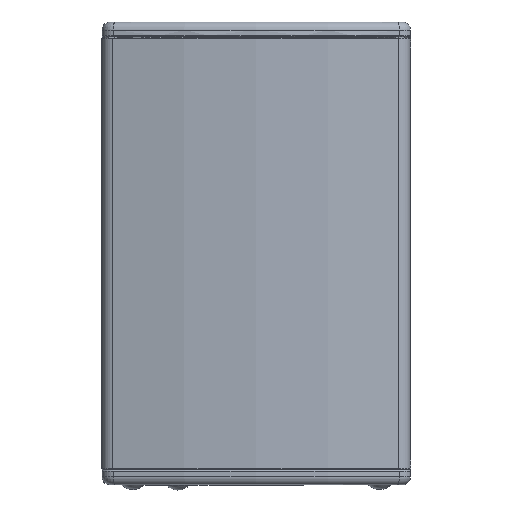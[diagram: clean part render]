
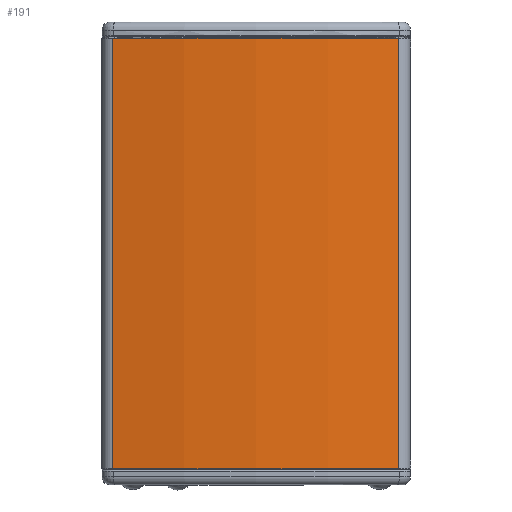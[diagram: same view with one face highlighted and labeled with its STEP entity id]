
A CAD part, top view. The second image highlights one B-rep face of the part: STEP entity #191.
In plain terms, the highlighted cylindrical face has radius 563 mm (diameter 1126 mm), a partial arc.
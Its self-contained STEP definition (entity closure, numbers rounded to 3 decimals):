
#191 = ADVANCED_FACE ( 'NONE', ( #4494 ), #4495, .T. ) ;
#1165 = DIRECTION ( 'NONE',  ( 0., -1., 0. ) ) ;
#1166 = CARTESIAN_POINT ( 'NONE',  ( -57.534, 352.992, -563.5 ) ) ;
#1927 = DIRECTION ( 'NONE',  ( 0., 0., -1. ) ) ;
#2538 = EDGE_LOOP ( 'NONE', ( #2675, #2673, #2674, #2670 ) ) ;
#2670 = ORIENTED_EDGE ( 'NONE', *, *, #4705, .T. ) ;
#2673 = ORIENTED_EDGE ( 'NONE', *, *, #4708, .F. ) ;
#2674 = ORIENTED_EDGE ( 'NONE', *, *, #4709, .F. ) ;
#2675 = ORIENTED_EDGE ( 'NONE', *, *, #4707, .T. ) ;
#2896 = VERTEX_POINT ( 'NONE', #6646 ) ;
#2897 = VERTEX_POINT ( 'NONE', #6647 ) ;
#2920 = VERTEX_POINT ( 'NONE', #6670 ) ;
#2921 = VERTEX_POINT ( 'NONE', #6671 ) ;
#4494 = FACE_OUTER_BOUND ( 'NONE', #2538, .T. ) ;
#4495 = CYLINDRICAL_SURFACE ( 'NONE', #4964, 563. ) ;
#4705 = EDGE_CURVE ( 'NONE', #2921, #2920, #7555, .T. ) ;
#4707 = EDGE_CURVE ( 'NONE', #2920, #2897, #7560, .T. ) ;
#4708 = EDGE_CURVE ( 'NONE', #2896, #2897, #7559, .T. ) ;
#4709 = EDGE_CURVE ( 'NONE', #2921, #2896, #7562, .T. ) ;
#4964 = AXIS2_PLACEMENT_3D ( 'NONE', #1166, #1165, #1927 ) ;
#5289 = AXIS2_PLACEMENT_3D ( 'NONE', #8346, #8347, #8348 ) ;
#5290 = AXIS2_PLACEMENT_3D ( 'NONE', #8351, #8352, #8353 ) ;
#6646 = CARTESIAN_POINT ( 'NONE',  ( 58.332, 352.992, -12.552 ) ) ;
#6647 = CARTESIAN_POINT ( 'NONE',  ( 58.332, 3.992, -12.552 ) ) ;
#6670 = CARTESIAN_POINT ( 'NONE',  ( -173.401, 3.992, -12.552 ) ) ;
#6671 = CARTESIAN_POINT ( 'NONE',  ( -173.401, 352.992, -12.552 ) ) ;
#7555 = LINE ( 'NONE', #8341, #7557 ) ;
#7557 = VECTOR ( 'NONE', #8342, 1000. ) ;
#7559 = LINE ( 'NONE', #8349, #7561 ) ;
#7560 = CIRCLE ( 'NONE', #5289, 563. ) ;
#7561 = VECTOR ( 'NONE', #8350, 1000. ) ;
#7562 = CIRCLE ( 'NONE', #5290, 563. ) ;
#8341 = CARTESIAN_POINT ( 'NONE',  ( -173.401, 352.992, -12.552 ) ) ;
#8342 = DIRECTION ( 'NONE',  ( 0., -1., 0. ) ) ;
#8346 = CARTESIAN_POINT ( 'NONE',  ( -57.534, 3.992, -563.5 ) ) ;
#8347 = DIRECTION ( 'NONE',  ( 0., 1., 0. ) ) ;
#8348 = DIRECTION ( 'NONE',  ( 0., 0., 1. ) ) ;
#8349 = CARTESIAN_POINT ( 'NONE',  ( 58.332, 352.992, -12.552 ) ) ;
#8350 = DIRECTION ( 'NONE',  ( 0., -1., 0. ) ) ;
#8351 = CARTESIAN_POINT ( 'NONE',  ( -57.534, 352.992, -563.5 ) ) ;
#8352 = DIRECTION ( 'NONE',  ( 0., 1., 0. ) ) ;
#8353 = DIRECTION ( 'NONE',  ( 0., 0., 1. ) ) ;
